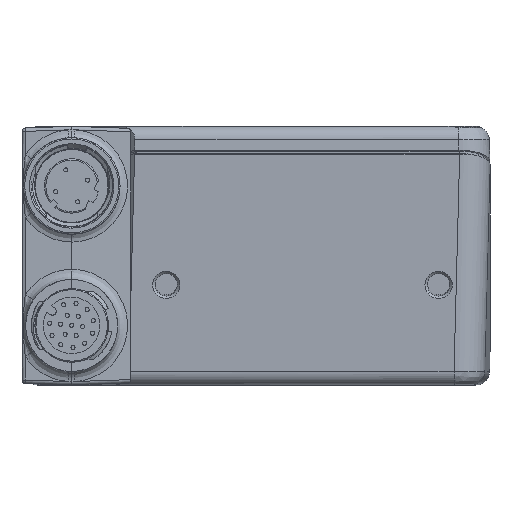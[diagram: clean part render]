
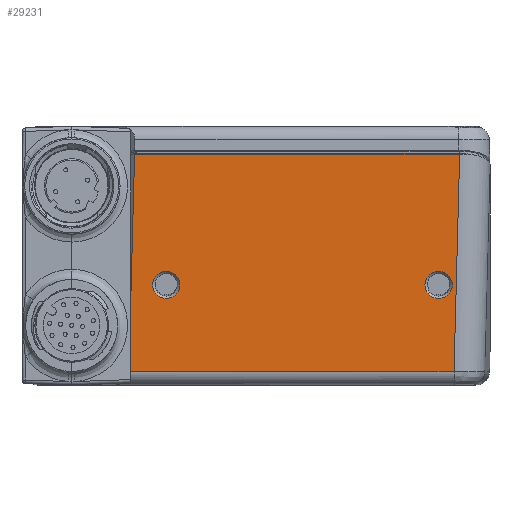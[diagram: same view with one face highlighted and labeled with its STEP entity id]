
A CAD part, front view. The second image highlights one B-rep face of the part: STEP entity #29231.
In plain terms, the highlighted planar face has unit normal (0, -1, -0.026).
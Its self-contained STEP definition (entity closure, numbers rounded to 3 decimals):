
#6591=LINE('',#136188,#13642);
#6620=LINE('',#136309,#13671);
#6621=LINE('',#136317,#13672);
#6622=LINE('',#136319,#13673);
#13642=VECTOR('',#96825,1.);
#13671=VECTOR('',#96900,1.);
#13672=VECTOR('',#96909,1.);
#13673=VECTOR('',#96910,1.);
#20096=PLANE('',#87650);
#29231=ADVANCED_FACE('',(#33539,#33540,#33541),#20096,.T.);
#33539=FACE_BOUND('',#35381,.T.);
#33540=FACE_BOUND('',#35382,.T.);
#33541=FACE_BOUND('',#35383,.T.);
#35381=EDGE_LOOP('',(#44759));
#35382=EDGE_LOOP('',(#44760));
#35383=EDGE_LOOP('',(#44761,#44762,#44763,#44764));
#44759=ORIENTED_EDGE('',*,*,#74766,.T.);
#44760=ORIENTED_EDGE('',*,*,#74767,.T.);
#44761=ORIENTED_EDGE('',*,*,#74764,.T.);
#44762=ORIENTED_EDGE('',*,*,#74718,.T.);
#44763=ORIENTED_EDGE('',*,*,#74768,.F.);
#44764=ORIENTED_EDGE('',*,*,#74769,.T.);
#65852=VERTEX_POINT('',#136187);
#65853=VERTEX_POINT('',#136189);
#65896=VERTEX_POINT('',#136310);
#65897=VERTEX_POINT('',#136314);
#65898=VERTEX_POINT('',#136316);
#65899=VERTEX_POINT('',#136318);
#74718=EDGE_CURVE('',#65853,#65852,#6591,.T.);
#74764=EDGE_CURVE('',#65896,#65853,#6620,.T.);
#74766=EDGE_CURVE('',#65897,#65897,#84940,.T.);
#74767=EDGE_CURVE('',#65898,#65898,#84941,.T.);
#74768=EDGE_CURVE('',#65899,#65852,#6621,.T.);
#74769=EDGE_CURVE('',#65899,#65896,#6622,.T.);
#84940=CIRCLE('',#87648,2.);
#84941=CIRCLE('',#87649,2.);
#87648=AXIS2_PLACEMENT_3D('',#136313,#96905,#96906);
#87649=AXIS2_PLACEMENT_3D('',#136315,#96907,#96908);
#87650=AXIS2_PLACEMENT_3D('',#136320,#96911,#96912);
#96825=DIRECTION('',(-1.,0.,0.));
#96900=DIRECTION('',(0.026,-0.026,0.999));
#96905=DIRECTION('',(0.,1.,0.026));
#96906=DIRECTION('',(0.,0.026,-1.));
#96907=DIRECTION('',(0.,1.,0.026));
#96908=DIRECTION('',(0.,0.026,-1.));
#96909=DIRECTION('',(0.026,-0.026,0.999));
#96910=DIRECTION('',(1.,0.,0.));
#96911=DIRECTION('',(0.,-1.,-0.026));
#96912=DIRECTION('',(0.,0.026,-1.));
#136187=CARTESIAN_POINT('',(-24.096,-49.694,34.));
#136188=CARTESIAN_POINT('',(43.854,-49.694,34.));
#136189=CARTESIAN_POINT('',(23.648,-49.694,34.));
#136309=CARTESIAN_POINT('',(23.628,-49.674,33.228));
#136310=CARTESIAN_POINT('',(22.817,-48.855,1.948));
#136313=CARTESIAN_POINT('',(20.554,-49.189,14.718));
#136314=CARTESIAN_POINT('',(20.554,-49.137,12.719));
#136315=CARTESIAN_POINT('',(-19.446,-49.189,14.718));
#136316=CARTESIAN_POINT('',(-19.446,-49.137,12.719));
#136317=CARTESIAN_POINT('',(-24.084,-49.706,34.469));
#136318=CARTESIAN_POINT('',(-24.936,-48.855,1.948));
#136319=CARTESIAN_POINT('',(-6.146,-48.855,1.948));
#136320=CARTESIAN_POINT('',(-6.146,-49.694,34.));
